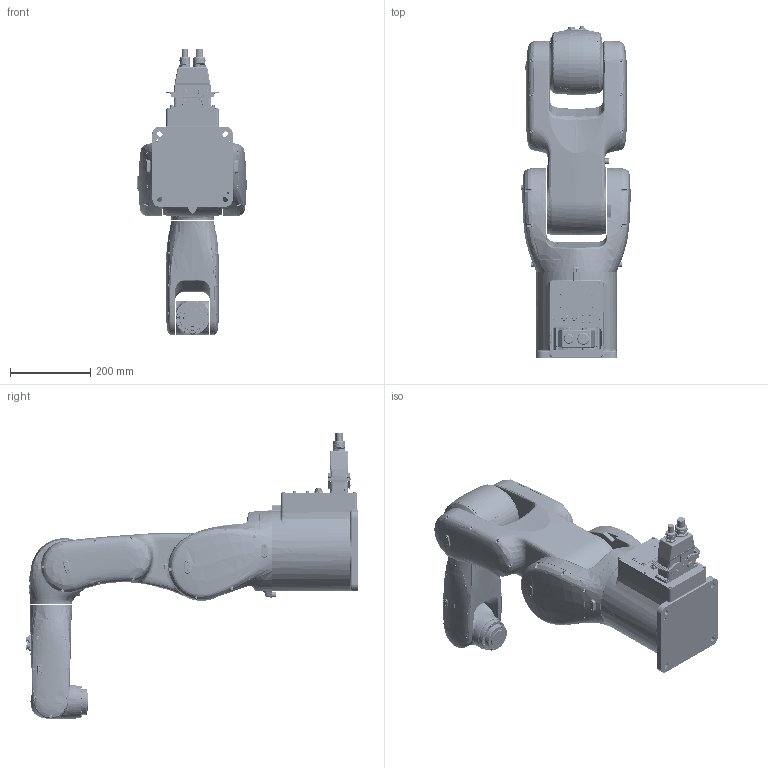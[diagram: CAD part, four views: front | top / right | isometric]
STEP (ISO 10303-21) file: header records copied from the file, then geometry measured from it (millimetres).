
FILE_DESCRIPTION (( 'STEP AP214' ), '1' );
FILE_NAME ('RA07A-08 小型六轴机器人_简化模型.STEP', '2022-12-08T11:23:56', ( 'User' ), ( 'China' ), 'SwSTEP 2.0', 'SolidWorks 2021', '' );
FILE_SCHEMA (( 'AUTOMOTIVE_DESIGN' ));
Length unit declared in the file: millimetre
Products named in the file (8): RA07A-08_06_2; RA07A-08_04; RA07A-08_05; RA07A-08_02; RA07A-08 小型六轴机器人_简化模型; RA07A-08_01(假蚾謂蜊); RA07A-08_03; RA07A-08_06_1
Assembly tree (7 placements, depth 2):
  RA07A-08 小型六轴机器人_简化模型
    RA07A-08_01(假蚾謂蜊)
    RA07A-08_02
    RA07A-08_03
    RA07A-08_04
    RA07A-08_05
    RA07A-08_06_1
    RA07A-08_06_2
Bounding box: 271.57 x 825.6 x 710.15 mm (x, y, z)
Volume: 28710300.2 mm3; surface area: 1230242.8 mm2
Topology: 7 solids, 7 shells, 5223 faces, 13024 edges, 7813 vertices
Faces by surface type: bspline 1781, cylinder 1743, plane 1095, torus 372, cone 210, sphere 22
Entity records: 360854 total; most frequent: CARTESIAN_POINT 227671, ORIENTED_EDGE 25776, DIRECTION 20413, EDGE_CURVE 12888, AXIS2_PLACEMENT_3D 8302, VERTEX_POINT 7810, EDGE_LOOP 5476, ADVANCED_FACE 5223
